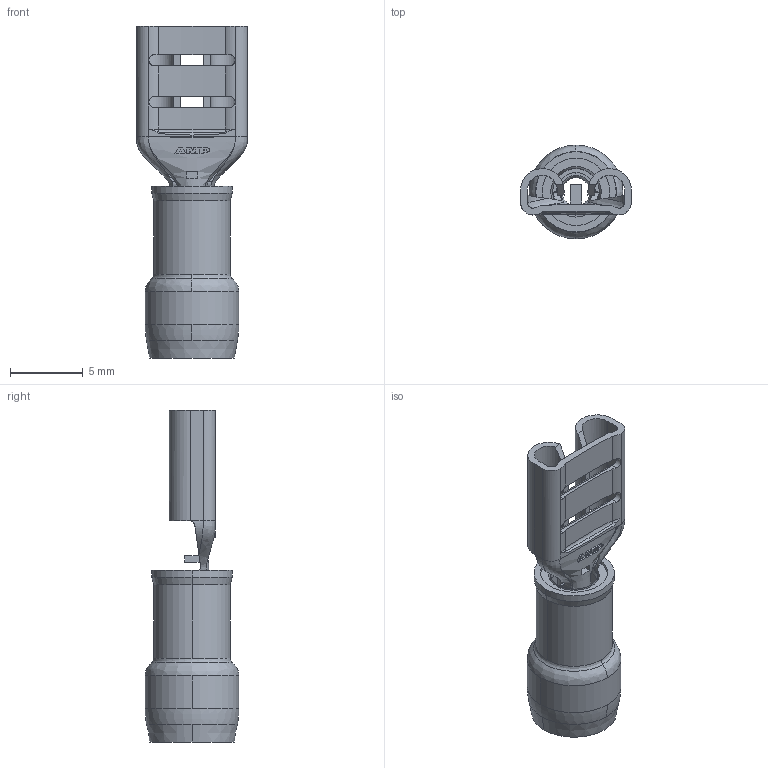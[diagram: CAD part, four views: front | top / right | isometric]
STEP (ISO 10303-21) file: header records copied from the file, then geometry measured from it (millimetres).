
FILE_DESCRIPTION (( 'STEP AP214' ), '1' );
FILE_NAME ('640905-1.STEP', '2013-04-05T12:27:24', ( 'Tester2' ), ( '' ), 'SwSTEP 2.0', 'SolidWorks 2012', '' );
FILE_SCHEMA (( 'AUTOMOTIVE_DESIGN' ));
Length unit declared in the file: millimetre
Products named in the file (1): 640905-1
Bounding box: 7.65 x 6.45 x 22.86 mm (x, y, z)
Volume: 255 mm3; surface area: 731.2 mm2
Topology: 1 solids, 1 shells, 190 faces, 499 edges, 315 vertices
Faces by surface type: plane 81, cylinder 57, bspline 32, cone 14, torus 6
Entity records: 7532 total; most frequent: CARTESIAN_POINT 2707, ORIENTED_EDGE 996, DIRECTION 802, EDGE_CURVE 498, VERTEX_POINT 314, AXIS2_PLACEMENT_3D 288, VECTOR 226, LINE 226
